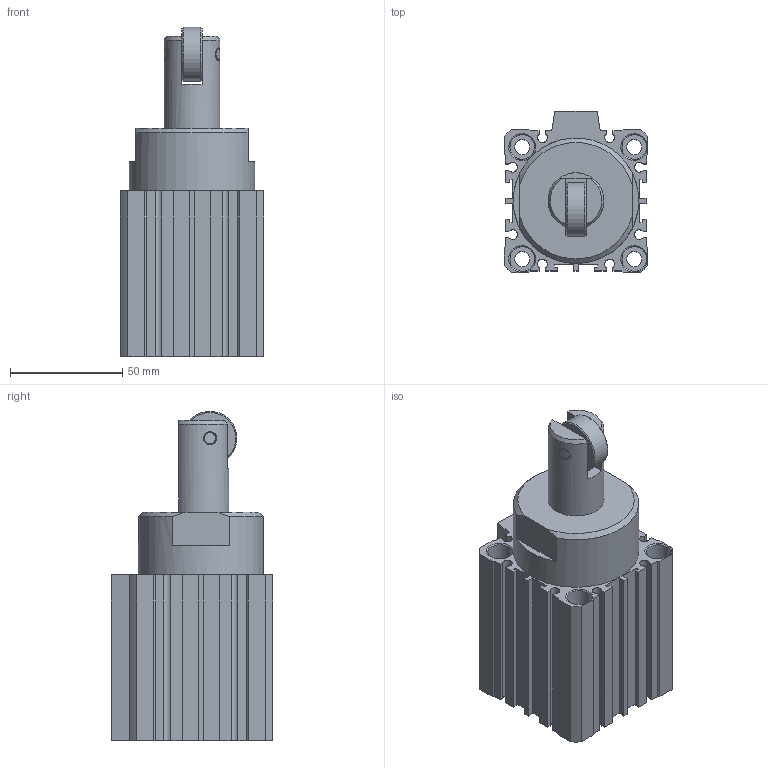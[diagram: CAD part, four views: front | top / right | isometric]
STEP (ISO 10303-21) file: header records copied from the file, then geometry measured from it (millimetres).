
FILE_DESCRIPTION((''),'2;1');
FILE_NAME('I:\3D電子目錄\氣缸\STC\STC\STC50\STC50x20.stp','2007-09-19T15:39:01',('Administrator'),(''),'Autodesk Inventor 11','Autodesk Inventor 11','');
FILE_SCHEMA(('AUTOMOTIVE_DESIGN { 1 0 10303 214 1 1 1 1 }'));
Length unit declared in the file: millimetre
Products named in the file (1): STC50
Bounding box: 64 x 72 x 147 mm (x, y, z)
Volume: 345661.4 mm3; surface area: 57571.5 mm2
Topology: 2 solids, 2 shells, 184 faces, 475 edges, 309 vertices
Faces by surface type: plane 118, cylinder 40, cone 20, bspline 5, torus 1
Full cylindrical faces by diameter (mm): 2.7 x2, 5 x2, 5.2 x2, 6.8 x4, 11 x8, 24 x1, 37 x1, 52 x2, 55 x1, 56 x1
Entity records: 5988 total; most frequent: CARTESIAN_POINT 1680, DIRECTION 866, ORIENTED_EDGE 836, EDGE_CURVE 418, VECTOR 296, LINE 296, VERTEX_POINT 295, AXIS2_PLACEMENT_3D 285
